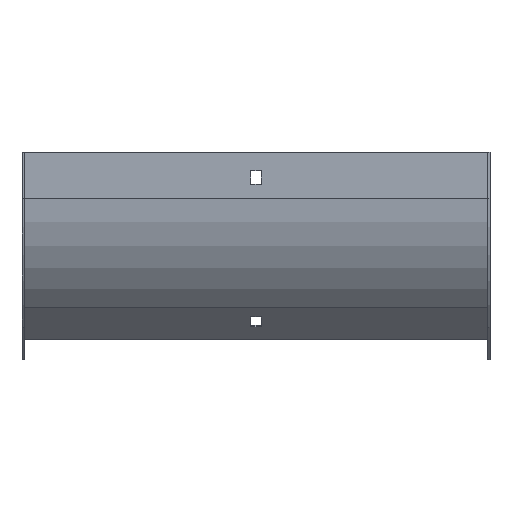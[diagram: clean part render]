
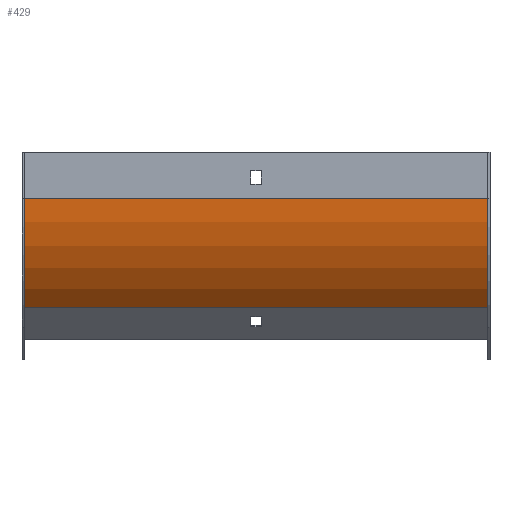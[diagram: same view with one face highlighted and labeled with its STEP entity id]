
A CAD part, front view. The second image highlights one B-rep face of the part: STEP entity #429.
In plain terms, the highlighted cylindrical face has radius 100 mm (diameter 200 mm), a partial arc.
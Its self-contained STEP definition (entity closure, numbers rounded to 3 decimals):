
#11 = DIRECTION ( 'NONE',  ( -1., 0., 0. ) ) ;
#19 = DIRECTION ( 'NONE',  ( -1., 0., 0. ) ) ;
#23 = AXIS2_PLACEMENT_3D ( 'NONE', #812, #19, #215 ) ;
#66 = EDGE_CURVE ( 'NONE', #543, #434, #615, .T. ) ;
#78 = CYLINDRICAL_SURFACE ( 'NONE', #23, 100. ) ;
#137 = ORIENTED_EDGE ( 'NONE', *, *, #443, .F. ) ;
#168 = AXIS2_PLACEMENT_3D ( 'NONE', #673, #565, #350 ) ;
#174 = EDGE_CURVE ( 'NONE', #848, #543, #655, .T. ) ;
#181 = VECTOR ( 'NONE', #11, 1000. ) ;
#203 = AXIS2_PLACEMENT_3D ( 'NONE', #386, #309, #839 ) ;
#215 = DIRECTION ( 'NONE',  ( 0., 0., 1. ) ) ;
#218 = ORIENTED_EDGE ( 'NONE', *, *, #706, .F. ) ;
#309 = DIRECTION ( 'NONE',  ( -1., 0., 0. ) ) ;
#350 = DIRECTION ( 'NONE',  ( 0., 0., -1. ) ) ;
#356 = CARTESIAN_POINT ( 'NONE',  ( 152., 27.789, -100.711 ) ) ;
#386 = CARTESIAN_POINT ( 'NONE',  ( 150.5, 98.5, -30. ) ) ;
#429 = ADVANCED_FACE ( 'NONE', ( #807 ), #78, .T. ) ;
#430 = CARTESIAN_POINT ( 'NONE',  ( -150.5, -1.5, -30. ) ) ;
#434 = VERTEX_POINT ( 'NONE', #430 ) ;
#443 = EDGE_CURVE ( 'NONE', #755, #434, #549, .T. ) ;
#487 = EDGE_LOOP ( 'NONE', ( #137, #218, #675, #665 ) ) ;
#543 = VERTEX_POINT ( 'NONE', #766 ) ;
#549 = CIRCLE ( 'NONE', #168, 100. ) ;
#556 = DIRECTION ( 'NONE',  ( -1., 0., 0. ) ) ;
#565 = DIRECTION ( 'NONE',  ( -1., 0., 0. ) ) ;
#567 = CARTESIAN_POINT ( 'NONE',  ( 152., -1.5, -30. ) ) ;
#615 = LINE ( 'NONE', #567, #181 ) ;
#632 = VECTOR ( 'NONE', #556, 1000. ) ;
#642 = CARTESIAN_POINT ( 'NONE',  ( -150.5, 27.789, -100.711 ) ) ;
#655 = CIRCLE ( 'NONE', #203, 100. ) ;
#665 = ORIENTED_EDGE ( 'NONE', *, *, #66, .T. ) ;
#673 = CARTESIAN_POINT ( 'NONE',  ( -150.5, 98.5, -30. ) ) ;
#675 = ORIENTED_EDGE ( 'NONE', *, *, #174, .T. ) ;
#706 = EDGE_CURVE ( 'NONE', #848, #755, #863, .T. ) ;
#755 = VERTEX_POINT ( 'NONE', #642 ) ;
#766 = CARTESIAN_POINT ( 'NONE',  ( 150.5, -1.5, -30. ) ) ;
#807 = FACE_OUTER_BOUND ( 'NONE', #487, .T. ) ;
#812 = CARTESIAN_POINT ( 'NONE',  ( 152., 98.5, -30. ) ) ;
#839 = DIRECTION ( 'NONE',  ( 0., 0., -1. ) ) ;
#848 = VERTEX_POINT ( 'NONE', #849 ) ;
#849 = CARTESIAN_POINT ( 'NONE',  ( 150.5, 27.789, -100.711 ) ) ;
#863 = LINE ( 'NONE', #356, #632 ) ;
